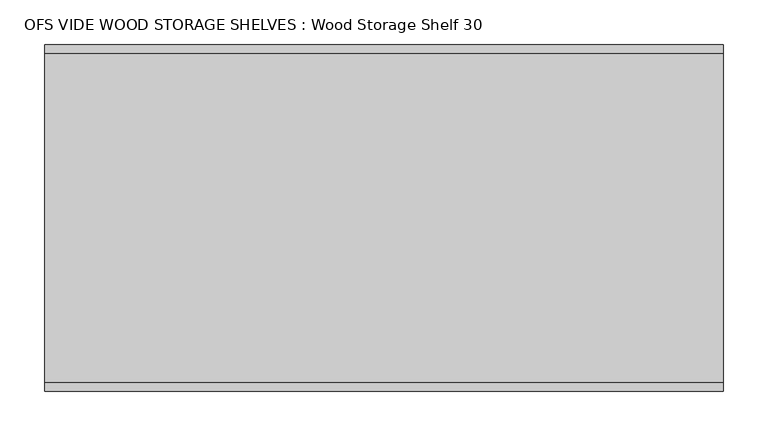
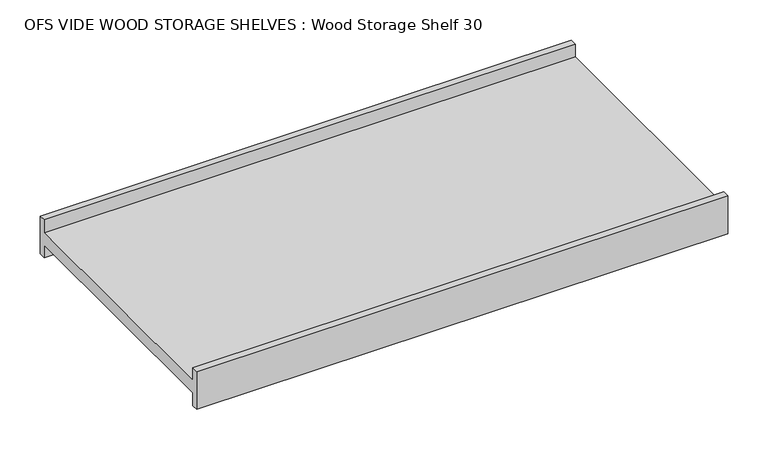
"""IFC4 building model written with IfcOpenShell, lengths in millimetres: furniture geometry, OFS VIDE WOOD STORAGE SHELVES : Wood Storage Shelf 30."""

from ifc_helpers import new_model, si_unit, frame, origin, place, context, project, spatial, polyline, outline, extrude, source, transform, mapped, element, save


def ofs_vide_wood_storage_shelves_wood_storage_shelf_30_c1451185(model_context):
    return source(origin(), model_context, "Body", "SweptSolid", [
        extrude(outline(polyline([(184.15, 130.175), (193.675, 130.175), (193.675, 73.025), (184.15, 73.025), (184.15, 92.075), (-184.15, 92.075), (-184.15, 73.025), (-193.675, 73.025), (-193.675, 130.175), (-184.15, 130.175), (-184.15, 111.125), (184.15, 111.125), (184.15, 130.175)])), frame((-379.4125, 0.0, 0.0), z_axis=(1.0, 0.0, 0.0), x_axis=(0.0, 1.0, 0.0)), (0.0, 0.0, 1.0), 758.825),
    ])


if __name__ == "__main__":
    model = new_model("IFC4")
    model_context = context("Model", 3, world=origin())
    ifc_project = project(units=[si_unit("LENGTHUNIT", "METRE", prefix="MILLI")], contexts=[model_context])
    site = spatial("IfcSite", under=ifc_project)
    building = spatial("IfcBuilding", under=site)
    placement = place(None, origin())
    ofs_vide_wood_storage_shelves_wood_storage_shelf_30_shape = ofs_vide_wood_storage_shelves_wood_storage_shelf_30_c1451185(model_context)
    element("IfcFurniture", 1, ObjectType="OFS VIDE WOOD STORAGE SHELVES : Wood Storage Shelf 30", at=placement, inside=building, context=model_context, shape_type="MappedRepresentation", body=[
        mapped(ofs_vide_wood_storage_shelves_wood_storage_shelf_30_shape, transform((0.0, 0.0, 0.0), x_axis=(1.0, 0.0, 0.0), y_axis=(0.0, 1.0, 0.0), z_axis=(0.0, 0.0, 1.0))),
    ])
    save(model, "model.ifc")
